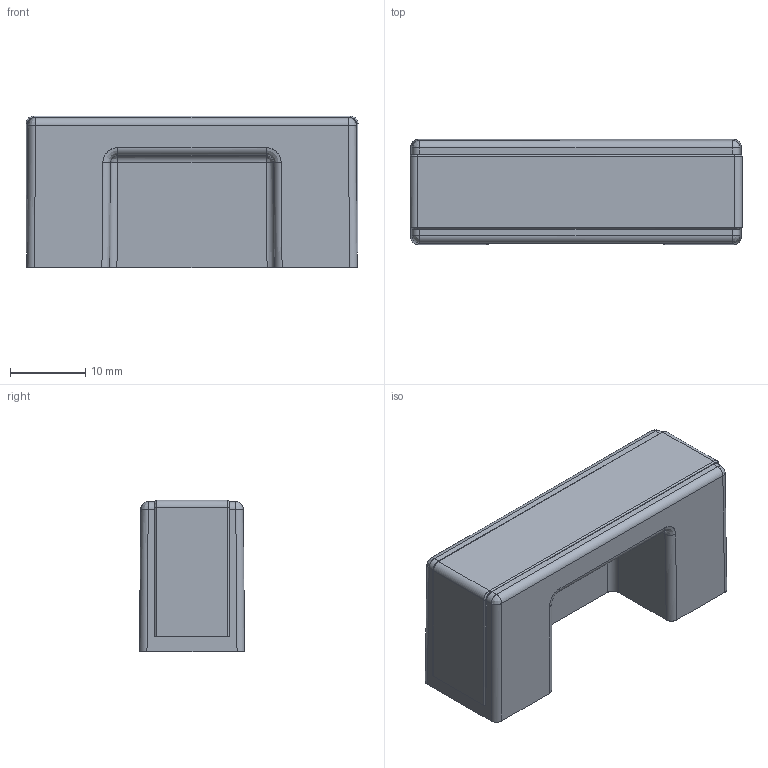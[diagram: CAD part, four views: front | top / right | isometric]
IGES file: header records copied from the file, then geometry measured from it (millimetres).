
Start section: C
Global section: file name: 8086-44.igs; native system: By Siemens PLM Incorporated; preprocessor: XPlus GENERIC/IGES 16.0.42; author: Author; organization: Title; date: 20210505.104108; units: millimetre
Bounding box: 44.23 x 14 x 20.2 mm (x, y, z)
Surface area: 7264.4 mm2 (no closed solid volume)
Topology: 0 solids, 0 shells, 134 faces, 750 edges, 744 vertices
Faces by surface type: bspline 134
